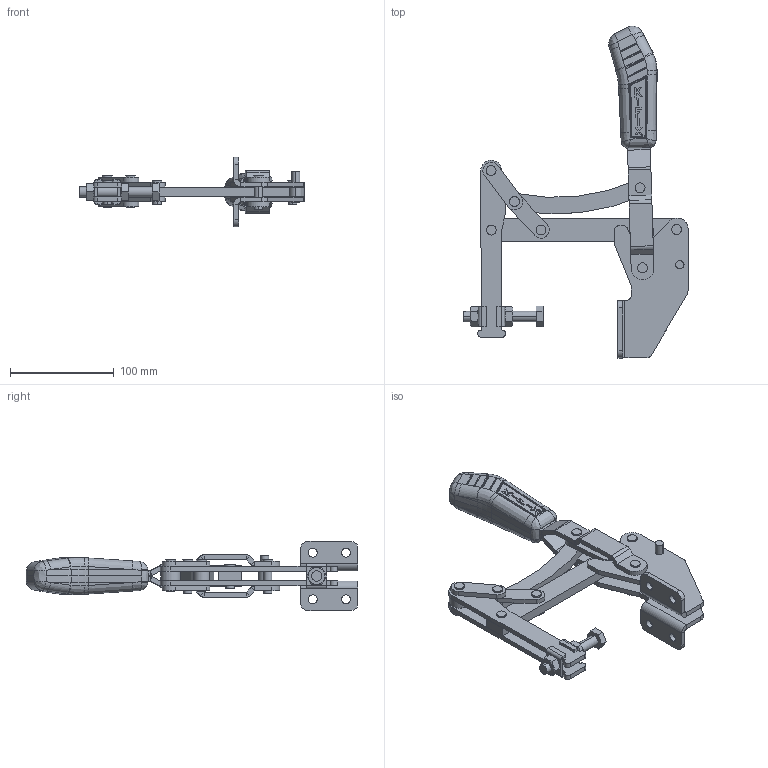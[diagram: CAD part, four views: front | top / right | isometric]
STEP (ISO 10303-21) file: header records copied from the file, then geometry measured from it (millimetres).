
FILE_DESCRIPTION (( 'STEP AP203' ), '1' );
FILE_NAME ('KF-411 DS A.STEP', '2014-09-09T14:14:31', ( 'Ricardo' ), ( '' ), 'SwSTEP 2.0', 'SolidWorks 2013', '' );
FILE_SCHEMA (( 'CONFIG_CONTROL_DESIGN' ));
Length unit declared in the file: millimetre
Products named in the file (18): 20.10005; 04.20003; 3670000105; 05.20006; 12.50021; 3670000074; 11.50003; 3670000075; 14.10003; 07.60003; 02.12024_Direita; KF-411 DS A; 03.15034; 02.12024_Esquerda; 08.10093; 01.10014; 15.10131; 04.10003A_Direita
Assembly tree (30 placements, depth 2):
  KF-411 DS A
    02.12024_Direita
    02.12024_Esquerda
    01.10014  x2
    04.10003A_Direita  x2
    04.20003
    05.20006
    3670000074  x4
    3670000075  x2
    07.60003
    03.15034
    08.10093  x4
    15.10131
    20.10005  x2
    3670000105  x2
    12.50021
    11.50003  x2
    14.10003  x2
Bounding box: 216.42 x 320.55 x 67 mm (x, y, z)
Volume: 365316.4 mm3; surface area: 152625.1 mm2
Topology: 30 solids, 30 shells, 899 faces, 2171 edges, 1351 vertices
Faces by surface type: plane 370, cylinder 311, bspline 143, sphere 48, cone 24, torus 3
Entity records: 26619 total; most frequent: CARTESIAN_POINT 8975, ORIENTED_EDGE 3436, DIRECTION 2853, EDGE_CURVE 1718, AXIS2_PLACEMENT_3D 1105, VERTEX_POINT 1077, EDGE_LOOP 783, ADVANCED_FACE 701
